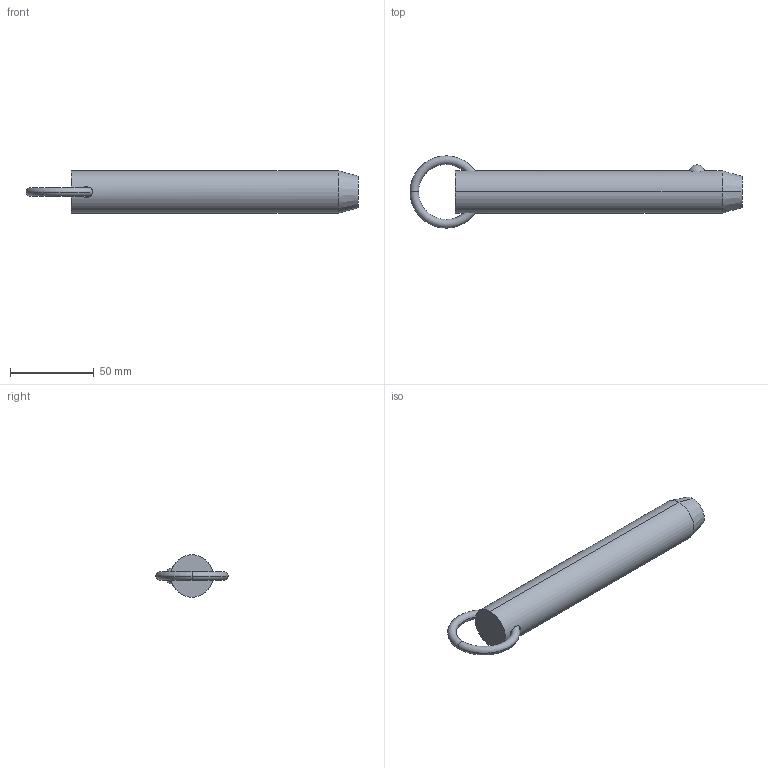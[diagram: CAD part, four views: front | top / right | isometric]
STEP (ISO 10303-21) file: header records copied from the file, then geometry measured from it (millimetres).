
FILE_DESCRIPTION (( 'STEP AP203' ), '1' );
FILE_NAME ('33010.W1050.step', '2024-11-01T10:48:19', ( '' ), ( '' ), 'SwSTEP 2.0', 'SolidWorks 2019', '' );
FILE_SCHEMA (( 'CONFIG_CONTROL_DESIGN' ));
Length unit declared in the file: millimetre
Products named in the file (3): Part1_33010.W1050; Part2_33010.W1050; 33010.W1050
Assembly tree (2 placements, depth 2):
  33010.W1050
    Part1_33010.W1050
    Part2_33010.W1050
Bounding box: 198.58 x 43.18 x 25.4 mm (x, y, z)
Volume: 87210.8 mm3; surface area: 16805.6 mm2
Topology: 2 solids, 2 shells, 18 faces, 37 edges, 22 vertices
Faces by surface type: torus 8, plane 4, sphere 2, cone 2, cylinder 2
Entity records: 975 total; most frequent: CARTESIAN_POINT 280, DIRECTION 100, ORIENTED_EDGE 74, AXIS2_PLACEMENT_3D 48, EDGE_CURVE 37, PERSON_AND_ORGANIZATION 26, CIRCLE 25, VERTEX_POINT 22
